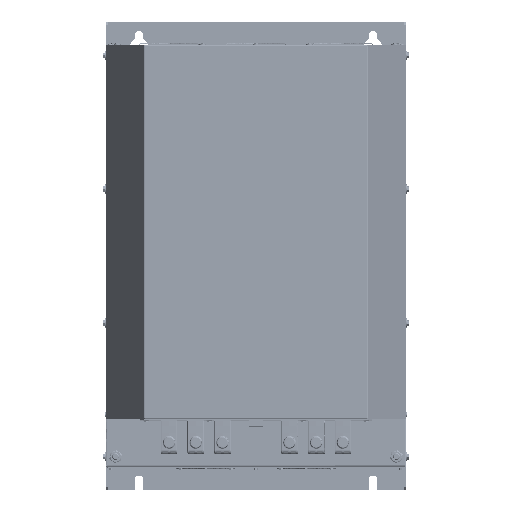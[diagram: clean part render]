
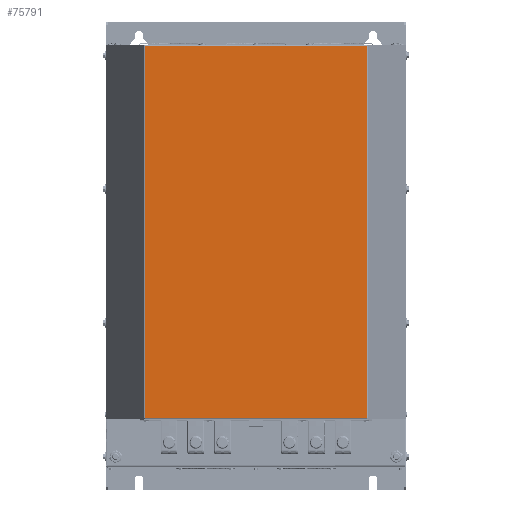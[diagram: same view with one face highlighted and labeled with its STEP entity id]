
A CAD part, front view. The second image highlights one B-rep face of the part: STEP entity #75791.
In plain terms, the highlighted planar face has unit normal (0, -1, 0).
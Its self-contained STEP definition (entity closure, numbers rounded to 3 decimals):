
#75476=CARTESIAN_POINT('',(166.226,-385.,-242.2));
#75477=VERTEX_POINT('',#75476);
#75485=CARTESIAN_POINT('',(-166.226,-385.,-242.2));
#75486=VERTEX_POINT('',#75485);
#75487=CARTESIAN_POINT('',(-166.226,-385.,-242.2));
#75488=DIRECTION('',(1.0,0.0,0.0));
#75489=VECTOR('',#75488,332.451);
#75490=LINE('',#75487,#75489);
#75491=EDGE_CURVE('',#75486,#75477,#75490,.T.);
#75645=CARTESIAN_POINT('',(-166.226,-385.,314.2));
#75646=VERTEX_POINT('',#75645);
#75647=CARTESIAN_POINT('',(-166.226,-385.,-242.2));
#75648=DIRECTION('',(0.0,0.0,1.0));
#75649=VECTOR('',#75648,556.4);
#75650=LINE('',#75647,#75649);
#75651=EDGE_CURVE('',#75486,#75646,#75650,.T.);
#75726=CARTESIAN_POINT('',(166.226,-385.,314.2));
#75727=VERTEX_POINT('',#75726);
#75735=CARTESIAN_POINT('',(166.226,-385.,-242.2));
#75736=DIRECTION('',(0.0,0.0,1.0));
#75737=VECTOR('',#75736,556.4);
#75738=LINE('',#75735,#75737);
#75739=EDGE_CURVE('',#75477,#75727,#75738,.T.);
#75775=CARTESIAN_POINT('',(166.226,-385.,-244.));
#75776=DIRECTION('',(0.0,-1.0,0.0));
#75777=DIRECTION('',(0.0,0.0,-1.0));
#75778=AXIS2_PLACEMENT_3D('',#75775,#75776,#75777);
#75779=PLANE('',#75778);
#75780=ORIENTED_EDGE('',*,*,#75491,.T.);
#75781=ORIENTED_EDGE('',*,*,#75739,.T.);
#75782=CARTESIAN_POINT('',(166.226,-385.,314.2));
#75783=DIRECTION('',(-1.0,0.0,0.0));
#75784=VECTOR('',#75783,332.451);
#75785=LINE('',#75782,#75784);
#75786=EDGE_CURVE('',#75727,#75646,#75785,.T.);
#75787=ORIENTED_EDGE('',*,*,#75786,.T.);
#75788=ORIENTED_EDGE('',*,*,#75651,.F.);
#75789=EDGE_LOOP('',(#75780,#75781,#75787,#75788));
#75790=FACE_OUTER_BOUND('',#75789,.T.);
#75791=ADVANCED_FACE('',(#75790),#75779,.T.);
